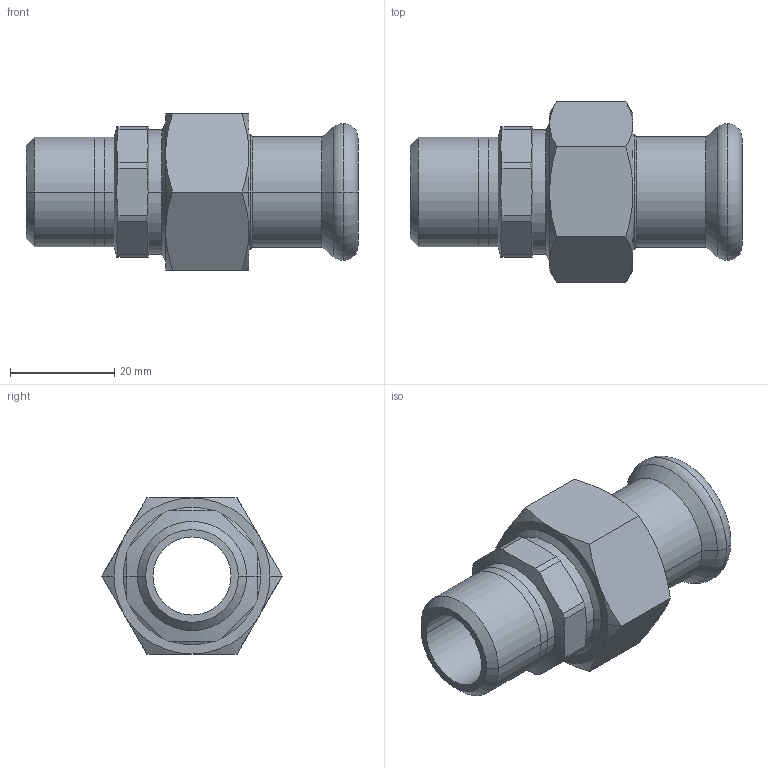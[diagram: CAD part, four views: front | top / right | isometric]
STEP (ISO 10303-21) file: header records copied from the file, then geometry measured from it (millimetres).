
FILE_DESCRIPTION(('CoCreate Modeling STEP Export'),'2;1');
FILE_NAME('C1435 18xR1-2.stp','2015-08-11T 8:51:56',(''),(''),'CoCreate Modeling STEP processor for AP214 (Solid Model)','CoCreate Modeling 17.00A 17-Jun-2010 (C) Parametric Technology GmbH','');
FILE_SCHEMA(('AUTOMOTIVE_DESIGN { 1 0 10303 214 1 1 1 1 }'));
Length unit declared in the file: millimetre
Products named in the file (5): 620768.5; 620725; 620746.5; 620757.5; C1435-18xR1-2
Assembly tree (4 placements, depth 2):
  C1435-18xR1-2
    620757.5
    620746.5
    620725
    620768.5
Bounding box: 63.8 x 34.64 x 30 mm (x, y, z)
Volume: 18724.3 mm3; surface area: 12976.7 mm2
Topology: 4 solids, 4 shells, 114 faces, 250 edges, 144 vertices
Faces by surface type: cone 40, cylinder 38, plane 22, torus 14
Entity records: 4329 total; most frequent: CARTESIAN_POINT 2063, ORIENTED_EDGE 500, DIRECTION 334, EDGE_CURVE 250, VERTEX_POINT 144, AXIS2_PLACEMENT_3D 127, EDGE_LOOP 122, FACE_OUTER_BOUND 114
